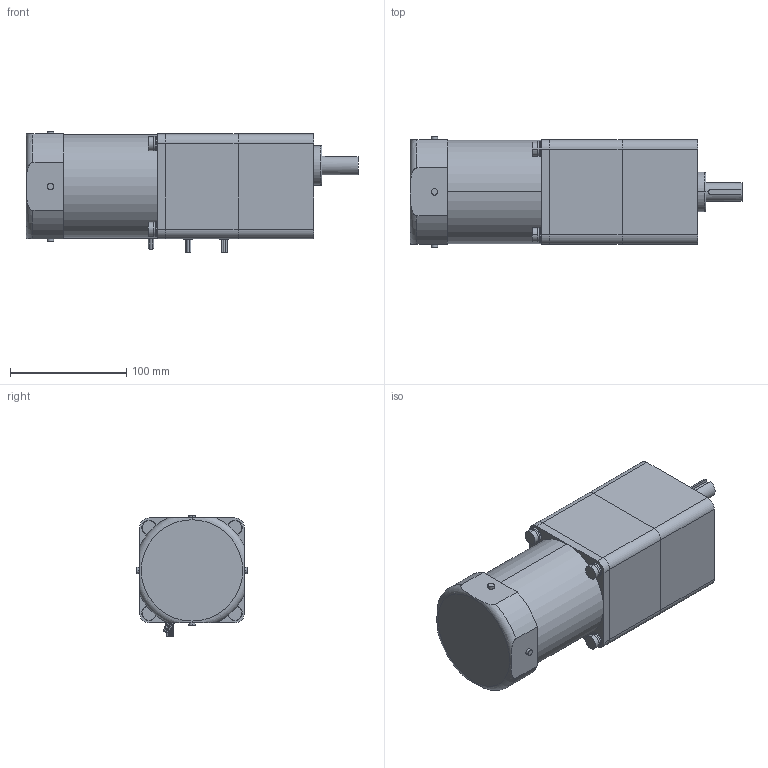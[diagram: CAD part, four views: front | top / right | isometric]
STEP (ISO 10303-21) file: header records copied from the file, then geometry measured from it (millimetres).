
FILE_DESCRIPTION(('starvars output'),'2;1');
FILE_NAME('CBI560-801WU _ 5GCH18KA.stp','14:27:28 2015/05/11',( 'Thomas Industrial Network Germany GmbH'),( 'Thomas Industrial Network Germany GmbH'),'unknown preprocess','ACIS' ,'unknown authorization');
FILE_SCHEMA(('AUTOMOTIVE_DESIGN_CC2 {UNKNOWN IMPLEMENTATION LEVEL}'));
Length unit declared in the file: millimetre
Products named in the file (1): PRODUCT_ID_1405
Bounding box: 285 x 94.8 x 104.4 mm (x, y, z)
Volume: 1808642.2 mm3; surface area: 108178.4 mm2
Topology: 1 solids, 5 shells, 215 faces, 463 edges, 306 vertices
Faces by surface type: cylinder 120, plane 85, torus 10
Entity records: 7249 total; most frequent: CARTESIAN_POINT 1143, ORIENTED_EDGE 926, DIRECTION 822, EDGE_CURVE 463, AXIS2_PLACEMENT_3D 313, VERTEX_POINT 306, EDGE_LOOP 263, FACE_BOUND 263
